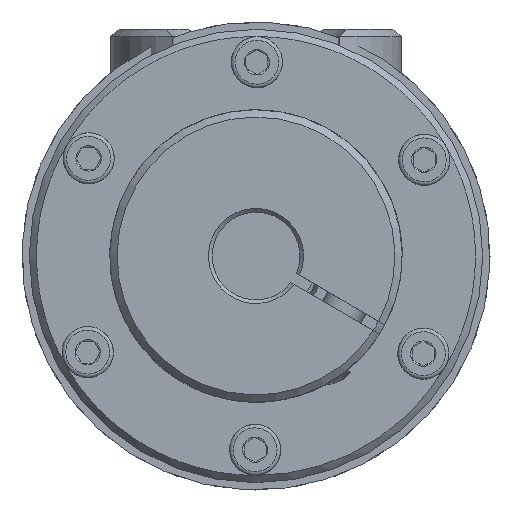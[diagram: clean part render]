
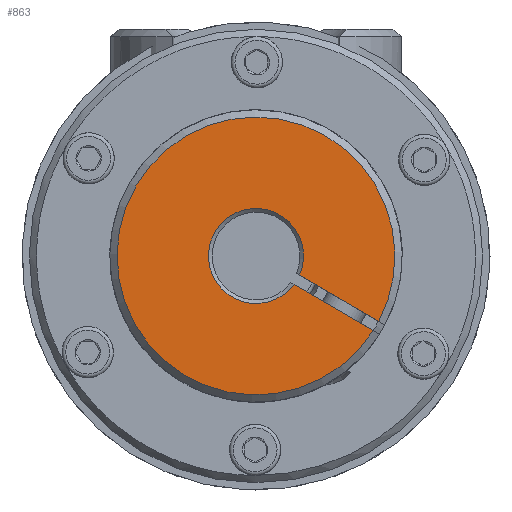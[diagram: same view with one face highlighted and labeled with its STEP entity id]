
A CAD part, left-side view. The second image highlights one B-rep face of the part: STEP entity #863.
In plain terms, the highlighted planar face has unit normal (-1, 0, 0) as drawn and (0, 0, -1) by its records, which use the part's own axes.
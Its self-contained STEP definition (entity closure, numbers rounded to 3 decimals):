
#863 = ADVANCED_FACE( '', ( #1808 ), #1809, .T. );
#1808 = FACE_OUTER_BOUND( '', #2782, .T. );
#1809 = PLANE( '', #2783 );
#2782 = EDGE_LOOP( '', ( #5123, #5124, #5125, #5126 ) );
#2783 = AXIS2_PLACEMENT_3D( '', #5127, #5128, #5129 );
#5123 = ORIENTED_EDGE( '', *, *, #6006, .T. );
#5124 = ORIENTED_EDGE( '', *, *, #5952, .T. );
#5125 = ORIENTED_EDGE( '', *, *, #5967, .F. );
#5126 = ORIENTED_EDGE( '', *, *, #6007, .T. );
#5127 = CARTESIAN_POINT( '', ( 0., 0., 0. ) );
#5128 = DIRECTION( '', ( 0., 0., -1. ) );
#5129 = DIRECTION( '', ( 0., -1., 0. ) );
#5952 = EDGE_CURVE( '', #7115, #7119, #7121, .F. );
#5967 = EDGE_CURVE( '', #7144, #7119, #7145, .F. );
#6006 = EDGE_CURVE( '', #7209, #7115, #7210, .T. );
#6007 = EDGE_CURVE( '', #7144, #7209, #7211, .T. );
#7115 = VERTEX_POINT( '', #9232 );
#7119 = VERTEX_POINT( '', #9239 );
#7121 = CIRCLE( '', #9244, 6.5 );
#7144 = VERTEX_POINT( '', #9294 );
#7145 = LINE( '', #9295, #9296 );
#7209 = VERTEX_POINT( '', #9406 );
#7210 = LINE( '', #9407, #9408 );
#7211 = CIRCLE( '', #9409, 19. );
#9232 = CARTESIAN_POINT( '', ( -6.457, -0.75, 0. ) );
#9239 = CARTESIAN_POINT( '', ( -6.457, 0.75, 0. ) );
#9244 = AXIS2_PLACEMENT_3D( '', #10682, #10683, #10684 );
#9294 = CARTESIAN_POINT( '', ( -18.985, 0.75, 0. ) );
#9295 = CARTESIAN_POINT( '', ( -20., 0.75, 0. ) );
#9296 = VECTOR( '', #10714, 1000. );
#9406 = CARTESIAN_POINT( '', ( -18.985, -0.75, 0. ) );
#9407 = CARTESIAN_POINT( '', ( 0., -0.75, 0. ) );
#9408 = VECTOR( '', #10793, 1000. );
#9409 = AXIS2_PLACEMENT_3D( '', #10794, #10795, #10796 );
#10682 = CARTESIAN_POINT( '', ( 0., 0., 0. ) );
#10683 = DIRECTION( '', ( 0., 0., -1. ) );
#10684 = DIRECTION( '', ( -1., 0., 0. ) );
#10714 = DIRECTION( '', ( -1., 0., 0. ) );
#10793 = DIRECTION( '', ( 1., 0., 0. ) );
#10794 = CARTESIAN_POINT( '', ( 0., 0., 0. ) );
#10795 = DIRECTION( '', ( 0., 0., -1. ) );
#10796 = DIRECTION( '', ( -1., 0., 0. ) );
